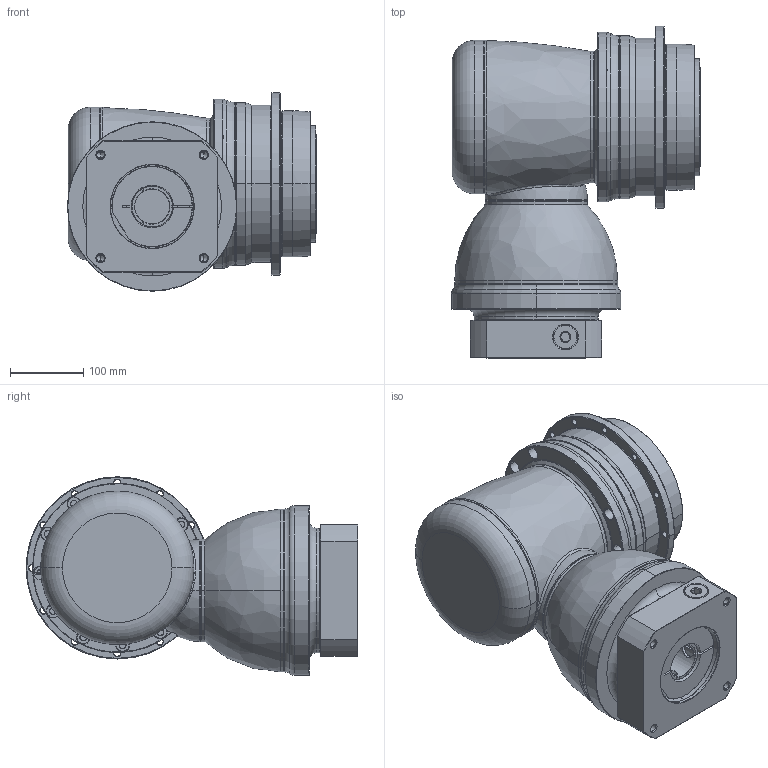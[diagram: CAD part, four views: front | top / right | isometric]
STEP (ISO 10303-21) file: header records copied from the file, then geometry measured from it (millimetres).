
FILE_DESCRIPTION((''),'2;1');
FILE_NAME('AHK200_2ST_48-P0409B00101_ASM','2016-10-14T',('d01943'),(''),'PRO/ENGINEER BY PARAMETRIC TECHNOLOGY CORPORATION, 2008410','PRO/ENGINEER BY PARAMETRIC TECHNOLOGY CORPORATION, 2008410','');
FILE_SCHEMA(('CONFIG_CONTROL_DESIGN'));
Length unit declared in the file: millimetre
Products named in the file (12): P1008600002; P1802600011; P0278600003; P0359600002; P1315600001; P1007600001; P1318600401; P0503B00016; P0912604201; P0409B00101; 21711426021; AHK200_2ST_48-P0409B00101_ASM
Assembly tree (11 placements, depth 2):
  AHK200_2ST_48-P0409B00101_ASM
    P1008600002
    P1802600011
    P0278600003
    P0359600002
    P1315600001
    P1007600001
    P1318600401
    P0503B00016
    P0912604201
    P0409B00101
    21711426021
Bounding box: 341 x 454.25 x 271.75 mm (x, y, z)
Volume: 14071517.4 mm3; surface area: 1218631 mm2
Topology: 12 solids, 12 shells, 918 faces, 2091 edges, 1214 vertices
Faces by surface type: cylinder 322, cone 294, plane 135, torus 128, bspline 37, sphere 2
Entity records: 32251 total; most frequent: CARTESIAN_POINT 11117, DIRECTION 4866, ORIENTED_EDGE 4058, AXIS2_PLACEMENT_3D 2089, EDGE_CURVE 2029, VERTEX_POINT 1214, CIRCLE 1185, EDGE_LOOP 1059
